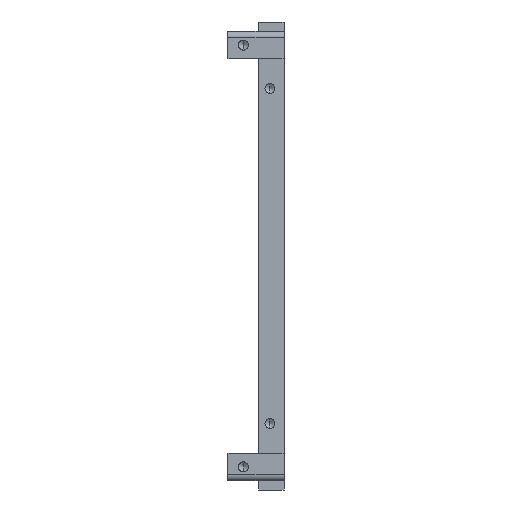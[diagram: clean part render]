
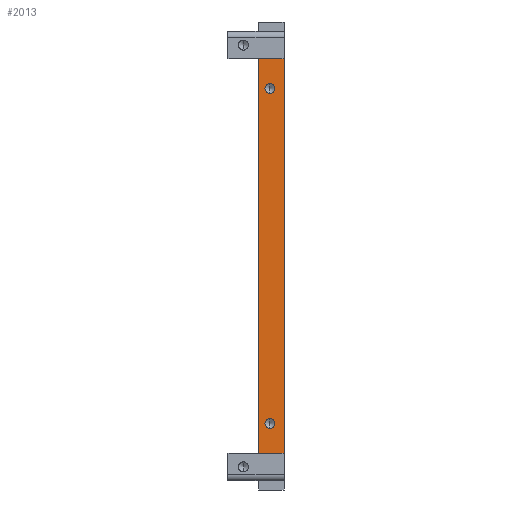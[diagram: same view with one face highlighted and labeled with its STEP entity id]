
A CAD part, left-side view. The second image highlights one B-rep face of the part: STEP entity #2013.
In plain terms, the highlighted planar face has unit normal (-1, 0, 0).
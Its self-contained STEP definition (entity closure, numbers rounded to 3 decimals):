
#21 = ORIENTED_EDGE ( 'NONE', *, *, #2053, .F. ) ;
#92 = CARTESIAN_POINT ( 'NONE',  ( -38., -19.8, 27.2 ) ) ;
#179 = FACE_OUTER_BOUND ( 'NONE', #1190, .T. ) ;
#202 = FACE_BOUND ( 'NONE', #3378, .T. ) ;
#384 = CIRCLE ( 'NONE', #629, 0.8 ) ;
#426 = CARTESIAN_POINT ( 'NONE',  ( -38., -22.1, 0. ) ) ;
#581 = VERTEX_POINT ( 'NONE', #846 ) ;
#608 = PLANE ( 'NONE',  #915 ) ;
#628 = CARTESIAN_POINT ( 'NONE',  ( -38., -19.8, 27.2 ) ) ;
#629 = AXIS2_PLACEMENT_3D ( 'NONE', #1718, #1766, #2864 ) ;
#821 = ORIENTED_EDGE ( 'NONE', *, *, #2189, .F. ) ;
#846 = CARTESIAN_POINT ( 'NONE',  ( -38., -22.1, -32. ) ) ;
#880 = CARTESIAN_POINT ( 'NONE',  ( -38., -19.8, -28. ) ) ;
#912 = DIRECTION ( 'NONE',  ( 0., 0., -1. ) ) ;
#915 = AXIS2_PLACEMENT_3D ( 'NONE', #2841, #4374, #912 ) ;
#1070 = ORIENTED_EDGE ( 'NONE', *, *, #1964, .F. ) ;
#1084 = CARTESIAN_POINT ( 'NONE',  ( -38., -18., -32. ) ) ;
#1190 = EDGE_LOOP ( 'NONE', ( #21, #1339, #821, #4276 ) ) ;
#1217 = DIRECTION ( 'NONE',  ( 0., 1., 0. ) ) ;
#1292 = FACE_BOUND ( 'NONE', #1494, .T. ) ;
#1339 = ORIENTED_EDGE ( 'NONE', *, *, #4702, .F. ) ;
#1348 = CIRCLE ( 'NONE', #1430, 0.8 ) ;
#1430 = AXIS2_PLACEMENT_3D ( 'NONE', #628, #1880, #3414 ) ;
#1434 = CIRCLE ( 'NONE', #2371, 0.8 ) ;
#1442 = DIRECTION ( 'NONE',  ( 0., 0., 1. ) ) ;
#1489 = EDGE_CURVE ( 'NONE', #4729, #4560, #1795, .T. ) ;
#1493 = ORIENTED_EDGE ( 'NONE', *, *, #4917, .F. ) ;
#1494 = EDGE_LOOP ( 'NONE', ( #2111, #1070 ) ) ;
#1572 = CARTESIAN_POINT ( 'NONE',  ( -38., -6.2, -32. ) ) ;
#1718 = CARTESIAN_POINT ( 'NONE',  ( -38., -19.8, -27.2 ) ) ;
#1766 = DIRECTION ( 'NONE',  ( -1., 0., 0. ) ) ;
#1795 = LINE ( 'NONE', #2870, #4576 ) ;
#1880 = DIRECTION ( 'NONE',  ( -1., 0., 0. ) ) ;
#1887 = VERTEX_POINT ( 'NONE', #3248 ) ;
#1890 = EDGE_CURVE ( 'NONE', #2713, #4446, #384, .T. ) ;
#1929 = LINE ( 'NONE', #1572, #4665 ) ;
#1964 = EDGE_CURVE ( 'NONE', #4446, #2713, #1434, .T. ) ;
#2002 = AXIS2_PLACEMENT_3D ( 'NONE', #92, #4897, #1442 ) ;
#2013 = ADVANCED_FACE ( 'NONE', ( #202, #1292, #179 ), #608, .F. ) ;
#2053 = EDGE_CURVE ( 'NONE', #2124, #4560, #2629, .T. ) ;
#2111 = ORIENTED_EDGE ( 'NONE', *, *, #1890, .F. ) ;
#2124 = VERTEX_POINT ( 'NONE', #4523 ) ;
#2189 = EDGE_CURVE ( 'NONE', #4729, #581, #3551, .T. ) ;
#2371 = AXIS2_PLACEMENT_3D ( 'NONE', #3228, #4471, #2528 ) ;
#2458 = ORIENTED_EDGE ( 'NONE', *, *, #4096, .F. ) ;
#2466 = CARTESIAN_POINT ( 'NONE',  ( -38., -19.8, -26.4 ) ) ;
#2528 = DIRECTION ( 'NONE',  ( 0., 0., 1. ) ) ;
#2565 = DIRECTION ( 'NONE',  ( 0., 1., 0. ) ) ;
#2629 = LINE ( 'NONE', #1084, #3109 ) ;
#2713 = VERTEX_POINT ( 'NONE', #2466 ) ;
#2812 = DIRECTION ( 'NONE',  ( 0., 0., -1. ) ) ;
#2841 = CARTESIAN_POINT ( 'NONE',  ( -38., -6.2, 0. ) ) ;
#2864 = DIRECTION ( 'NONE',  ( 0., 0., 1. ) ) ;
#2870 = CARTESIAN_POINT ( 'NONE',  ( -38., -6.2, 32. ) ) ;
#3109 = VECTOR ( 'NONE', #3372, 1000. ) ;
#3228 = CARTESIAN_POINT ( 'NONE',  ( -38., -19.8, -27.2 ) ) ;
#3248 = CARTESIAN_POINT ( 'NONE',  ( -38., -19.8, 28. ) ) ;
#3372 = DIRECTION ( 'NONE',  ( 0., 0., 1. ) ) ;
#3378 = EDGE_LOOP ( 'NONE', ( #1493, #2458 ) ) ;
#3414 = DIRECTION ( 'NONE',  ( 0., 0., 1. ) ) ;
#3551 = LINE ( 'NONE', #426, #3744 ) ;
#3730 = CARTESIAN_POINT ( 'NONE',  ( -38., -18., 32. ) ) ;
#3744 = VECTOR ( 'NONE', #2812, 1000. ) ;
#3796 = CARTESIAN_POINT ( 'NONE',  ( -38., -19.8, 26.4 ) ) ;
#4096 = EDGE_CURVE ( 'NONE', #4926, #1887, #1348, .T. ) ;
#4276 = ORIENTED_EDGE ( 'NONE', *, *, #1489, .T. ) ;
#4350 = CIRCLE ( 'NONE', #2002, 0.8 ) ;
#4374 = DIRECTION ( 'NONE',  ( 1., 0., 0. ) ) ;
#4446 = VERTEX_POINT ( 'NONE', #880 ) ;
#4471 = DIRECTION ( 'NONE',  ( -1., 0., 0. ) ) ;
#4523 = CARTESIAN_POINT ( 'NONE',  ( -38., -18., -32. ) ) ;
#4560 = VERTEX_POINT ( 'NONE', #3730 ) ;
#4576 = VECTOR ( 'NONE', #2565, 1000. ) ;
#4586 = CARTESIAN_POINT ( 'NONE',  ( -38., -22.1, 32. ) ) ;
#4665 = VECTOR ( 'NONE', #1217, 1000. ) ;
#4702 = EDGE_CURVE ( 'NONE', #581, #2124, #1929, .T. ) ;
#4729 = VERTEX_POINT ( 'NONE', #4586 ) ;
#4897 = DIRECTION ( 'NONE',  ( -1., 0., 0. ) ) ;
#4917 = EDGE_CURVE ( 'NONE', #1887, #4926, #4350, .T. ) ;
#4926 = VERTEX_POINT ( 'NONE', #3796 ) ;
